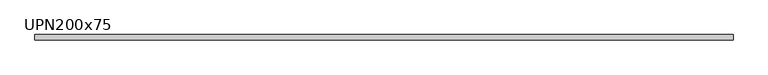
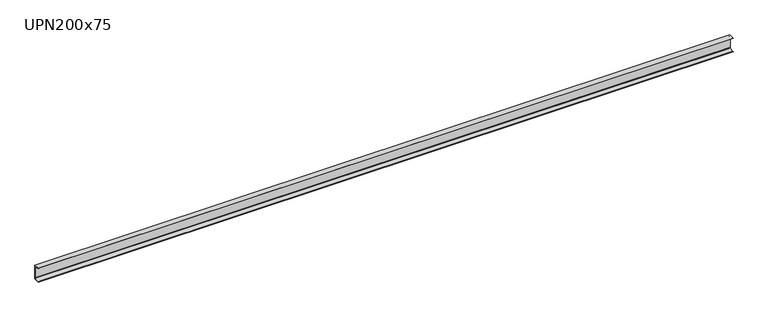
"""IFC4 building model written with IfcOpenShell, lengths in millimetres: beam geometry, M_MC Shapes : UPN200x75."""

from ifc_helpers import new_model, si_unit, point, frame, frame_2d, origin, place, context, project, spatial, polyline, circle_curve, trimmed, segment, composite_curve, outline, extrude, source, transform, mapped, element, save


def upn200x75_0a6f6e24(model_context):
    return source(origin(), model_context, "Body", "SweptSolid", [
        extrude(outline(composite_curve([segment(polyline([(10.9, 100.0), (10.9, -100.0), (-64.1, -100.0), (-64.1, -99.0253247)]), True, "CONTINUOUS"), segment(trimmed(circle_curve(frame_2d((-60.15, -99.0253247)), 3.95), [point((-64.1, -99.0253247))], [point((-60.7993773, -95.1290689))], False, "CARTESIAN"), True, "CONTINUOUS"), segment(polyline([(-60.7993773, -95.1290689), (-0.2512455, -85.0376935)]), True, "CONTINUOUS"), segment(trimmed(circle_curve(frame_2d((-1.55, -77.2451819)), 7.9), [point((-0.2512455, -85.0376935))], [point((6.35, -77.2451819))], True, "CARTESIAN"), True, "CONTINUOUS"), segment(polyline([(6.35, -77.2451819), (6.35, 77.2451819)]), True, "CONTINUOUS"), segment(trimmed(circle_curve(frame_2d((-1.55, 77.2451819)), 7.9), [point((6.35, 77.2451819))], [point((-0.2512455, 85.0376935))], True, "CARTESIAN"), True, "CONTINUOUS"), segment(polyline([(-0.2512455, 85.0376935), (-60.7993773, 95.1290689)]), True, "CONTINUOUS"), segment(trimmed(circle_curve(frame_2d((-60.15, 99.0253247)), 3.95), [point((-60.7993773, 95.1290689))], [point((-64.1, 99.0253247))], False, "CARTESIAN"), True, "CONTINUOUS"), segment(polyline([(-64.1, 99.0253247), (-64.1, 100.0), (10.9, 100.0)]), True, "CONTINUOUS")], self_intersect=False)), frame((-4749.3, 0.0, 0.0), z_axis=(1.0, 0.0, 0.0), x_axis=(0.0, 1.0, 0.0)), (0.0, 0.0, 1.0), 9512.2),
    ])


if __name__ == "__main__":
    model = new_model("IFC4")
    model_context = context("Model", 3, world=origin())
    ifc_project = project(units=[si_unit("LENGTHUNIT", "METRE", prefix="MILLI")], contexts=[model_context])
    site = spatial("IfcSite", under=ifc_project)
    building = spatial("IfcBuilding", under=site)
    placement = place(None, origin())
    upn200x75_shape = upn200x75_0a6f6e24(model_context)
    element("IfcBeam", 1, ObjectType="M_MC Shapes : UPN200x75", at=placement, inside=building, context=model_context, shape_type="MappedRepresentation", body=[
        mapped(upn200x75_shape, transform((0.0, 0.0, 0.0), x_axis=(1.0, 0.0, 0.0), y_axis=(0.0, 1.0, 0.0), z_axis=(0.0, 0.0, 1.0))),
    ])
    save(model, "model.ifc")
